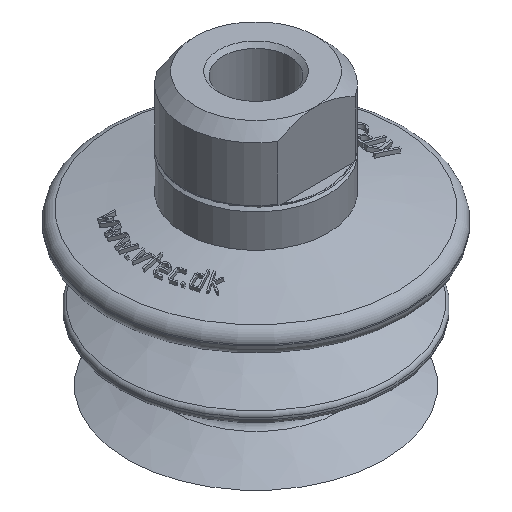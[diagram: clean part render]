
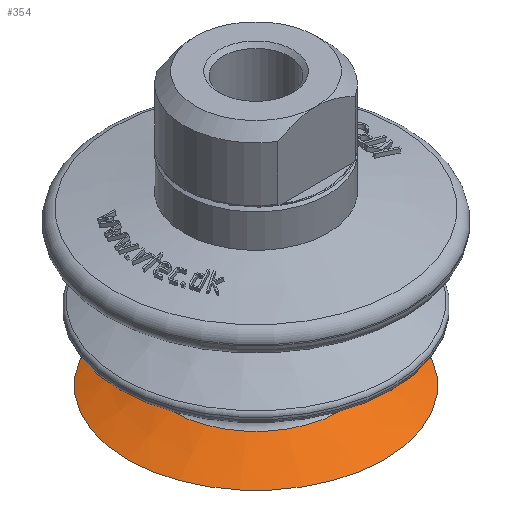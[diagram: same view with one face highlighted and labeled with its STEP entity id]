
A CAD part, isometric view. The second image highlights one B-rep face of the part: STEP entity #354.
In plain terms, the highlighted conical face has half-angle 66.352 degrees and reference radius 11.099 mm.
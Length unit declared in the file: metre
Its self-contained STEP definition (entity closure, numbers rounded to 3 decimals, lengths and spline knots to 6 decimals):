
#354 = ADVANCED_FACE( '', ( #844, #845 ), #846, .T. );
#844 = FACE_OUTER_BOUND( '', #2090, .T. );
#845 = FACE_BOUND( '', #2091, .T. );
#846 = CONICAL_SURFACE( '', #2092, 0.011099, 1.158 );
#2090 = EDGE_LOOP( '', ( #5273 ) );
#2091 = EDGE_LOOP( '', ( #5274 ) );
#2092 = AXIS2_PLACEMENT_3D( '', #5275, #5276, #5277 );
#5273 = ORIENTED_EDGE( '', *, *, #6732, .T. );
#5274 = ORIENTED_EDGE( '', *, *, #6636, .F. );
#5275 = CARTESIAN_POINT( '', ( 0., 0., -0.010416 ) );
#5276 = DIRECTION( '', ( 0., 0., -1. ) );
#5277 = DIRECTION( '', ( -1., 0., 0. ) );
#6636 = EDGE_CURVE( '', #7445, #7445, #7446, .T. );
#6732 = EDGE_CURVE( '', #7596, #7596, #7597, .F. );
#7445 = VERTEX_POINT( '', #9009 );
#7446 = CIRCLE( '', #9010, 0.011099 );
#7596 = VERTEX_POINT( '', #9422 );
#7597 = CIRCLE( '', #9423, 0.017 );
#9009 = CARTESIAN_POINT( '', ( 0.011099, 0., -0.010416 ) );
#9010 = AXIS2_PLACEMENT_3D( '', #11016, #11017, #11018 );
#9422 = CARTESIAN_POINT( '', ( -0.017, 0., -0.013 ) );
#9423 = AXIS2_PLACEMENT_3D( '', #11067, #11068, #11069 );
#11016 = CARTESIAN_POINT( '', ( 0., 0., -0.010416 ) );
#11017 = DIRECTION( '', ( 0., 0., 1. ) );
#11018 = DIRECTION( '', ( 1., 0., 0. ) );
#11067 = CARTESIAN_POINT( '', ( 0., 0., -0.013 ) );
#11068 = DIRECTION( '', ( 0., 0., -1. ) );
#11069 = DIRECTION( '', ( -1., 0., 0. ) );
